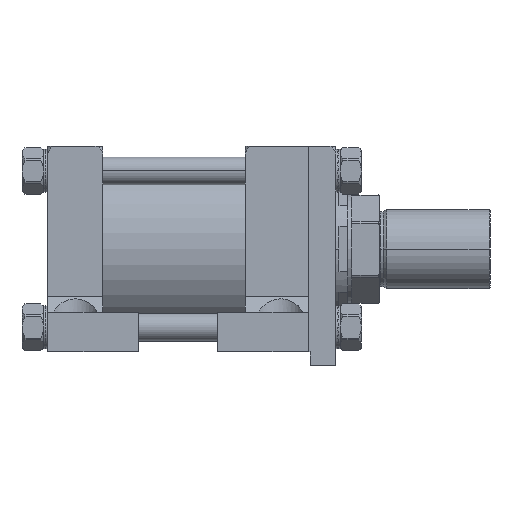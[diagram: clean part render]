
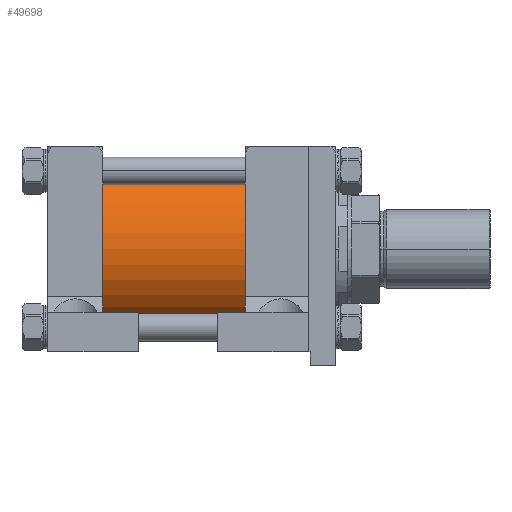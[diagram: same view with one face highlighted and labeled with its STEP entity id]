
A CAD part, front view. The second image highlights one B-rep face of the part: STEP entity #49698.
In plain terms, the highlighted cylindrical face has radius 73.025 mm (diameter 146.05 mm), a partial arc.
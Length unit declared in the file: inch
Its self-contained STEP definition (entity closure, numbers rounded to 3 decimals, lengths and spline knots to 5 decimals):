
#157 = EDGE_CURVE ( 'NONE', #14953, #33450, #59710, .T. ) ;
#1034 = LINE ( 'NONE', #58522, #40507 ) ;
#2352 = DIRECTION ( 'NONE',  ( 0., 0., -1. ) ) ;
#5863 = AXIS2_PLACEMENT_3D ( 'NONE', #8754, #61188, #27823 ) ;
#6734 = FACE_OUTER_BOUND ( 'NONE', #8708, .T. ) ;
#8708 = EDGE_LOOP ( 'NONE', ( #17154, #43947, #33627, #17376 ) ) ;
#8754 = CARTESIAN_POINT ( 'NONE',  ( -9., 0., 0. ) ) ;
#8895 = CIRCLE ( 'NONE', #5863, 2.875 ) ;
#10855 = CARTESIAN_POINT ( 'NONE',  ( -9., 0., 0. ) ) ;
#11733 = DIRECTION ( 'NONE',  ( 0., 1., 0. ) ) ;
#11772 = CYLINDRICAL_SURFACE ( 'NONE', #56455, 2.875 ) ;
#12556 = VECTOR ( 'NONE', #55950, 39.37008 ) ;
#14953 = VERTEX_POINT ( 'NONE', #60548 ) ;
#16606 = EDGE_CURVE ( 'NONE', #33450, #52334, #52482, .T. ) ;
#17154 = ORIENTED_EDGE ( 'NONE', *, *, #157, .F. ) ;
#17376 = ORIENTED_EDGE ( 'NONE', *, *, #16606, .F. ) ;
#17979 = CARTESIAN_POINT ( 'NONE',  ( -4., 0., 0. ) ) ;
#19885 = VERTEX_POINT ( 'NONE', #39779 ) ;
#21619 = CARTESIAN_POINT ( 'NONE',  ( -9., 0., 2.875 ) ) ;
#27198 = CARTESIAN_POINT ( 'NONE',  ( -4., 0., -2.875 ) ) ;
#27823 = DIRECTION ( 'NONE',  ( 0., 1., 0. ) ) ;
#33450 = VERTEX_POINT ( 'NONE', #42548 ) ;
#33627 = ORIENTED_EDGE ( 'NONE', *, *, #58527, .T. ) ;
#37065 = DIRECTION ( 'NONE',  ( 1., 0., 0. ) ) ;
#39779 = CARTESIAN_POINT ( 'NONE',  ( -9., 0., -2.875 ) ) ;
#39838 = DIRECTION ( 'NONE',  ( 1., 0., 0. ) ) ;
#40507 = VECTOR ( 'NONE', #39838, 39.37008 ) ;
#42548 = CARTESIAN_POINT ( 'NONE',  ( -4., 0., 2.875 ) ) ;
#43947 = ORIENTED_EDGE ( 'NONE', *, *, #43957, .T. ) ;
#43957 = EDGE_CURVE ( 'NONE', #14953, #19885, #8895, .T. ) ;
#45312 = DIRECTION ( 'NONE',  ( 1., 0., 0. ) ) ;
#46257 = AXIS2_PLACEMENT_3D ( 'NONE', #17979, #37065, #11733 ) ;
#49698 = ADVANCED_FACE ( 'NONE', ( #6734 ), #11772, .T. ) ;
#52334 = VERTEX_POINT ( 'NONE', #27198 ) ;
#52482 = CIRCLE ( 'NONE', #46257, 2.875 ) ;
#55950 = DIRECTION ( 'NONE',  ( 1., 0., 0. ) ) ;
#56455 = AXIS2_PLACEMENT_3D ( 'NONE', #10855, #45312, #2352 ) ;
#58522 = CARTESIAN_POINT ( 'NONE',  ( -9., 0., -2.875 ) ) ;
#58527 = EDGE_CURVE ( 'NONE', #19885, #52334, #1034, .T. ) ;
#59710 = LINE ( 'NONE', #21619, #12556 ) ;
#60548 = CARTESIAN_POINT ( 'NONE',  ( -9., 0., 2.875 ) ) ;
#61188 = DIRECTION ( 'NONE',  ( 1., 0., 0. ) ) ;
